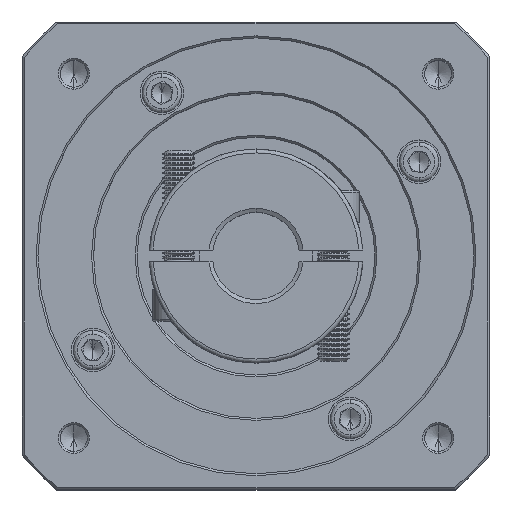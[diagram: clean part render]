
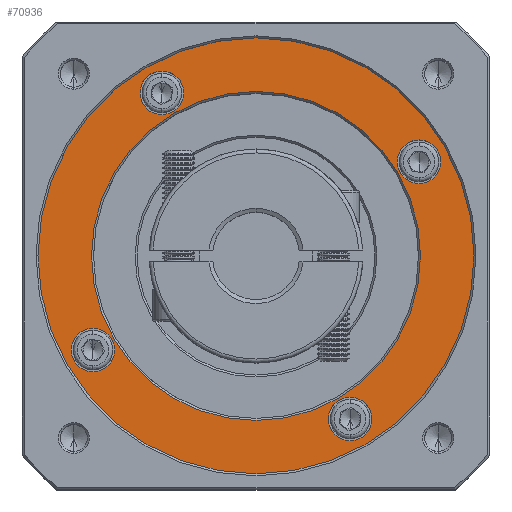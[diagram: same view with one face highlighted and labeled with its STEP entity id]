
A CAD part, top view. The second image highlights one B-rep face of the part: STEP entity #70936.
In plain terms, the highlighted planar face has unit normal (0, 0, 1).
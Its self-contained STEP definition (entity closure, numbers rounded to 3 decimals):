
#1527 = ORIENTED_EDGE ( 'NONE', *, *, #64407, .T. ) ;
#2485 = EDGE_LOOP ( 'NONE', ( #111507, #1527 ) ) ;
#3871 = DIRECTION ( 'NONE',  ( 0., 1., 0. ) ) ;
#5207 = CARTESIAN_POINT ( 'NONE',  ( 98.637, 88.224, 8.74 ) ) ;
#5372 = FACE_BOUND ( 'NONE', #2485, .T. ) ;
#7032 = FACE_OUTER_BOUND ( 'NONE', #60911, .T. ) ;
#7580 = CARTESIAN_POINT ( 'NONE',  ( 57.501, 64.474, 8.74 ) ) ;
#7586 = DIRECTION ( 'NONE',  ( 0., 0., -1. ) ) ;
#8784 = DIRECTION ( 'NONE',  ( 0., 0., -1. ) ) ;
#12044 = ORIENTED_EDGE ( 'NONE', *, *, #33199, .T. ) ;
#13610 = ORIENTED_EDGE ( 'NONE', *, *, #37717, .T. ) ;
#14591 = DIRECTION ( 'NONE',  ( 0., 0., -1. ) ) ;
#16811 = CARTESIAN_POINT ( 'NONE',  ( 16.365, 46.224, 8.74 ) ) ;
#16959 = ORIENTED_EDGE ( 'NONE', *, *, #96557, .T. ) ;
#17804 = DIRECTION ( 'NONE',  ( 0., 1., 0. ) ) ;
#19347 = DIRECTION ( 'NONE',  ( 0., 1., 0. ) ) ;
#19631 = CIRCLE ( 'NONE', #42613, 5.5 ) ;
#21383 = DIRECTION ( 'NONE',  ( 0., 0., -1. ) ) ;
#22087 = DIRECTION ( 'NONE',  ( 1., 0., 0. ) ) ;
#22543 = CARTESIAN_POINT ( 'NONE',  ( 98.637, 88.224, 8.74 ) ) ;
#24666 = EDGE_LOOP ( 'NONE', ( #61978, #63637 ) ) ;
#25912 = AXIS2_PLACEMENT_3D ( 'NONE', #111643, #48630, #80624 ) ;
#27043 = CIRCLE ( 'NONE', #91225, 41.5 ) ;
#28328 = EDGE_CURVE ( 'NONE', #103551, #123923, #27043, .T. ) ;
#29339 = CARTESIAN_POINT ( 'NONE',  ( 16.365, 35.224, 8.74 ) ) ;
#29402 = DIRECTION ( 'NONE',  ( 0., 1., 0. ) ) ;
#31564 = VERTEX_POINT ( 'NONE', #61279 ) ;
#32332 = ORIENTED_EDGE ( 'NONE', *, *, #78311, .T. ) ;
#32708 = CIRCLE ( 'NONE', #102649, 5.5 ) ;
#33199 = EDGE_CURVE ( 'NONE', #67757, #118743, #112657, .T. ) ;
#33314 = DIRECTION ( 'NONE',  ( 0., 1., 0. ) ) ;
#33553 = ORIENTED_EDGE ( 'NONE', *, *, #95220, .T. ) ;
#34571 = CARTESIAN_POINT ( 'NONE',  ( 33.751, 105.611, 8.74 ) ) ;
#37149 = AXIS2_PLACEMENT_3D ( 'NONE', #66760, #86186, #3871 ) ;
#37576 = CARTESIAN_POINT ( 'NONE',  ( 16.365, 40.724, 8.74 ) ) ;
#37717 = EDGE_CURVE ( 'NONE', #118743, #67757, #19631, .T. ) ;
#40022 = CARTESIAN_POINT ( 'NONE',  ( 33.751, 105.611, 8.74 ) ) ;
#40849 = AXIS2_PLACEMENT_3D ( 'NONE', #63280, #21383, #42098 ) ;
#41929 = CIRCLE ( 'NONE', #92336, 55. ) ;
#42098 = DIRECTION ( 'NONE',  ( 0., 1., 0. ) ) ;
#42613 = AXIS2_PLACEMENT_3D ( 'NONE', #34571, #55755, #107533 ) ;
#43859 = CARTESIAN_POINT ( 'NONE',  ( 57.501, 9.474, 8.74 ) ) ;
#48630 = DIRECTION ( 'NONE',  ( 0., 0., -1. ) ) ;
#51021 = VERTEX_POINT ( 'NONE', #29339 ) ;
#52249 = CARTESIAN_POINT ( 'NONE',  ( 57.501, 64.474, 8.74 ) ) ;
#55227 = FACE_BOUND ( 'NONE', #95785, .T. ) ;
#55682 = VERTEX_POINT ( 'NONE', #16811 ) ;
#55755 = DIRECTION ( 'NONE',  ( 0., 0., -1. ) ) ;
#57122 = CIRCLE ( 'NONE', #94207, 41.5 ) ;
#57298 = ORIENTED_EDGE ( 'NONE', *, *, #120134, .T. ) ;
#60911 = EDGE_LOOP ( 'NONE', ( #117837, #57298 ) ) ;
#61279 = CARTESIAN_POINT ( 'NONE',  ( 98.637, 93.724, 8.74 ) ) ;
#61724 = AXIS2_PLACEMENT_3D ( 'NONE', #40022, #132729, #19347 ) ;
#61978 = ORIENTED_EDGE ( 'NONE', *, *, #65342, .T. ) ;
#63268 = FACE_BOUND ( 'NONE', #24666, .T. ) ;
#63280 = CARTESIAN_POINT ( 'NONE',  ( 81.251, 23.338, 8.74 ) ) ;
#63637 = ORIENTED_EDGE ( 'NONE', *, *, #28328, .T. ) ;
#64407 = EDGE_CURVE ( 'NONE', #118435, #103291, #107640, .T. ) ;
#64687 = CARTESIAN_POINT ( 'NONE',  ( 57.501, 119.474, 8.74 ) ) ;
#65265 = CARTESIAN_POINT ( 'NONE',  ( 81.251, 28.838, 8.74 ) ) ;
#65342 = EDGE_CURVE ( 'NONE', #123923, #103551, #57122, .T. ) ;
#66760 = CARTESIAN_POINT ( 'NONE',  ( 57.501, 64.474, 8.74 ) ) ;
#67757 = VERTEX_POINT ( 'NONE', #69017 ) ;
#68595 = CARTESIAN_POINT ( 'NONE',  ( 99.001, 64.474, 8.74 ) ) ;
#69017 = CARTESIAN_POINT ( 'NONE',  ( 33.751, 111.111, 8.74 ) ) ;
#69533 = CARTESIAN_POINT ( 'NONE',  ( 98.637, 82.724, 8.74 ) ) ;
#69896 = AXIS2_PLACEMENT_3D ( 'NONE', #121799, #7586, #100249 ) ;
#70936 = ADVANCED_FACE ( 'NONE', ( #7032, #63268, #106799, #87445, #55227, #5372 ), #128846, .T. ) ;
#71776 = DIRECTION ( 'NONE',  ( 0., 0., 1. ) ) ;
#72844 = CIRCLE ( 'NONE', #69896, 5.5 ) ;
#75605 = CIRCLE ( 'NONE', #123324, 5.5 ) ;
#78311 = EDGE_CURVE ( 'NONE', #51021, #55682, #72844, .T. ) ;
#78465 = CARTESIAN_POINT ( 'NONE',  ( 81.251, 17.838, 8.74 ) ) ;
#79519 = DIRECTION ( 'NONE',  ( 0., 0., 1. ) ) ;
#80624 = DIRECTION ( 'NONE',  ( 0., 1., 0. ) ) ;
#83117 = CARTESIAN_POINT ( 'NONE',  ( 16.001, 64.474, 8.74 ) ) ;
#83801 = DIRECTION ( 'NONE',  ( 0., 0., -1. ) ) ;
#84489 = CIRCLE ( 'NONE', #115223, 55. ) ;
#85207 = EDGE_CURVE ( 'NONE', #97714, #103649, #41929, .T. ) ;
#86186 = DIRECTION ( 'NONE',  ( 0., 0., 1. ) ) ;
#87154 = EDGE_LOOP ( 'NONE', ( #12044, #13610 ) ) ;
#87445 = FACE_BOUND ( 'NONE', #118300, .T. ) ;
#88777 = CIRCLE ( 'NONE', #40849, 5.5 ) ;
#89784 = CARTESIAN_POINT ( 'NONE',  ( 57.501, 64.474, 8.74 ) ) ;
#91152 = CARTESIAN_POINT ( 'NONE',  ( 57.501, 64.474, 8.74 ) ) ;
#91225 = AXIS2_PLACEMENT_3D ( 'NONE', #52249, #83801, #22087 ) ;
#92281 = EDGE_CURVE ( 'NONE', #103291, #118435, #88777, .T. ) ;
#92336 = AXIS2_PLACEMENT_3D ( 'NONE', #91152, #71776, #29402 ) ;
#92589 = AXIS2_PLACEMENT_3D ( 'NONE', #5207, #14591, #118103 ) ;
#94207 = AXIS2_PLACEMENT_3D ( 'NONE', #89784, #8784, #119863 ) ;
#95220 = EDGE_CURVE ( 'NONE', #31564, #123495, #75605, .T. ) ;
#95769 = DIRECTION ( 'NONE',  ( 0., 0., -1. ) ) ;
#95785 = EDGE_LOOP ( 'NONE', ( #108791, #32332 ) ) ;
#96557 = EDGE_CURVE ( 'NONE', #123495, #31564, #123239, .T. ) ;
#97714 = VERTEX_POINT ( 'NONE', #64687 ) ;
#100249 = DIRECTION ( 'NONE',  ( 0., 1., 0. ) ) ;
#102649 = AXIS2_PLACEMENT_3D ( 'NONE', #37576, #95769, #116427 ) ;
#103291 = VERTEX_POINT ( 'NONE', #65265 ) ;
#103551 = VERTEX_POINT ( 'NONE', #83117 ) ;
#103649 = VERTEX_POINT ( 'NONE', #43859 ) ;
#106799 = FACE_BOUND ( 'NONE', #87154, .T. ) ;
#107533 = DIRECTION ( 'NONE',  ( 0., 1., 0. ) ) ;
#107640 = CIRCLE ( 'NONE', #25912, 5.5 ) ;
#108791 = ORIENTED_EDGE ( 'NONE', *, *, #127939, .T. ) ;
#111507 = ORIENTED_EDGE ( 'NONE', *, *, #92281, .T. ) ;
#111643 = CARTESIAN_POINT ( 'NONE',  ( 81.251, 23.338, 8.74 ) ) ;
#112657 = CIRCLE ( 'NONE', #61724, 5.5 ) ;
#115223 = AXIS2_PLACEMENT_3D ( 'NONE', #7580, #79519, #17804 ) ;
#116427 = DIRECTION ( 'NONE',  ( 0., 1., 0. ) ) ;
#117837 = ORIENTED_EDGE ( 'NONE', *, *, #85207, .T. ) ;
#118103 = DIRECTION ( 'NONE',  ( 0., 1., 0. ) ) ;
#118300 = EDGE_LOOP ( 'NONE', ( #33553, #16959 ) ) ;
#118435 = VERTEX_POINT ( 'NONE', #78465 ) ;
#118743 = VERTEX_POINT ( 'NONE', #124580 ) ;
#119863 = DIRECTION ( 'NONE',  ( 1., 0., 0. ) ) ;
#120134 = EDGE_CURVE ( 'NONE', #103649, #97714, #84489, .T. ) ;
#121799 = CARTESIAN_POINT ( 'NONE',  ( 16.365, 40.724, 8.74 ) ) ;
#123239 = CIRCLE ( 'NONE', #92589, 5.5 ) ;
#123324 = AXIS2_PLACEMENT_3D ( 'NONE', #22543, #126511, #33314 ) ;
#123495 = VERTEX_POINT ( 'NONE', #69533 ) ;
#123923 = VERTEX_POINT ( 'NONE', #68595 ) ;
#124580 = CARTESIAN_POINT ( 'NONE',  ( 33.751, 100.111, 8.74 ) ) ;
#126511 = DIRECTION ( 'NONE',  ( 0., 0., -1. ) ) ;
#127939 = EDGE_CURVE ( 'NONE', #55682, #51021, #32708, .T. ) ;
#128846 = PLANE ( 'NONE',  #37149 ) ;
#132729 = DIRECTION ( 'NONE',  ( 0., 0., -1. ) ) ;
